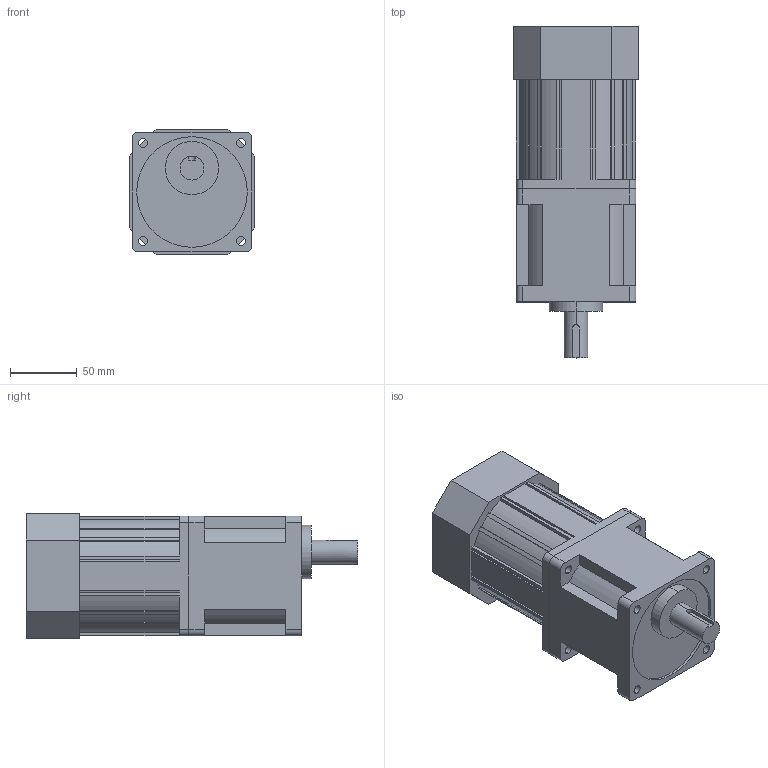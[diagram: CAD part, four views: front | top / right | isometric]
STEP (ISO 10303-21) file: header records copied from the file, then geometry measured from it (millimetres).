
FILE_DESCRIPTION (( 'STEP AP203' ), '1' );
FILE_NAME ('L9UK003B + L9I60PBH.STEP', '2018-09-20T05:32:50', ( '' ), ( '' ), 'SwSTEP 2.0', 'SolidWorks 2017', '' );
FILE_SCHEMA (( 'CONFIG_CONTROL_DESIGN' ));
Length unit declared in the file: millimetre
Products named in the file (1): L9UK003B + L9I60PBH
Bounding box: 94 x 249 x 94 mm (x, y, z)
Volume: 1473783.2 mm3; surface area: 113907.6 mm2
Topology: 2 solids, 2 shells, 170 faces, 486 edges, 324 vertices
Faces by surface type: plane 103, cylinder 67
Entity records: 5712 total; most frequent: CARTESIAN_POINT 1011, ORIENTED_EDGE 972, DIRECTION 959, EDGE_CURVE 486, LINE 351, VECTOR 351, VERTEX_POINT 324, AXIS2_PLACEMENT_3D 304
